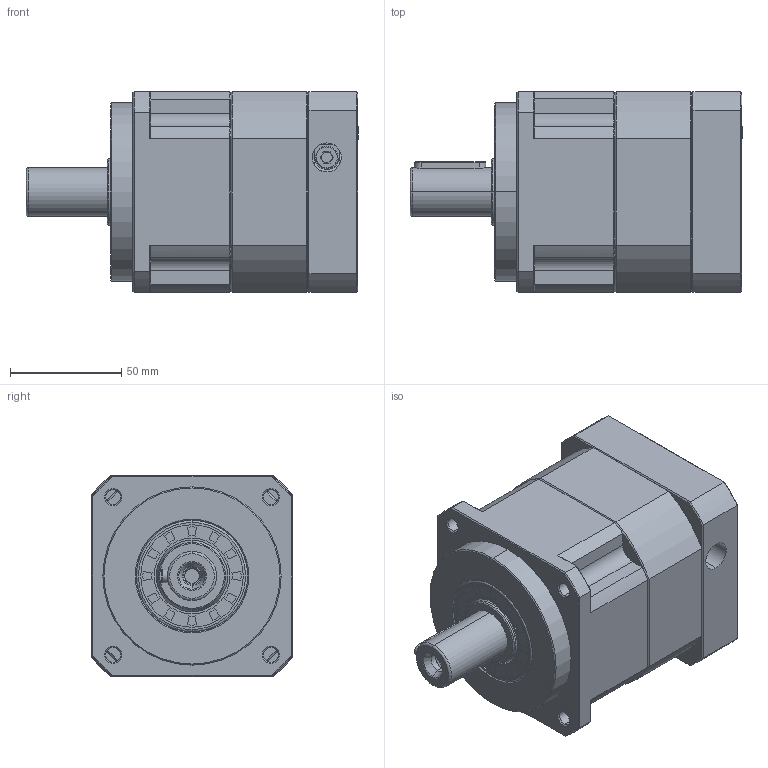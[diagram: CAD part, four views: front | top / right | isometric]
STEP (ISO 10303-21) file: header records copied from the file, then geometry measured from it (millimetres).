
FILE_DESCRIPTION (( 'STEP AP214' ), '1' );
FILE_NAME ('ZPB090-D22-L1-P1-14-60-75-M6.step', '2024-06-07T18:18:34', ( 'Windows 蚚誧' ), ( 'Organization' ), 'SwSTEP 2.0', 'SolidWorks 2016', '' );
FILE_SCHEMA (( 'AUTOMOTIVE_DESIGN' ));
Length unit declared in the file: millimetre
Products named in the file (1): ZPB090-D22-L1-P1-14-60-75-M6
Bounding box: 149 x 90 x 90 mm (x, y, z)
Surface area: 74768.7 mm2 (no closed solid volume)
Topology: 0 solids, 35 shells, 1820 faces, 4867 edges, 3110 vertices
Faces by surface type: plane 936, bspline 388, cone 276, cylinder 218, torus 2
Full cylindrical faces by diameter (mm): 6.72 x1
Entity records: 94889 total; most frequent: CARTESIAN_POINT 47685, ORIENTED_EDGE 9685, DIRECTION 7461, EDGE_CURVE 4862, LINE 3203, VECTOR 3203, VERTEX_POINT 3108, AXIS2_PLACEMENT_3D 2129
